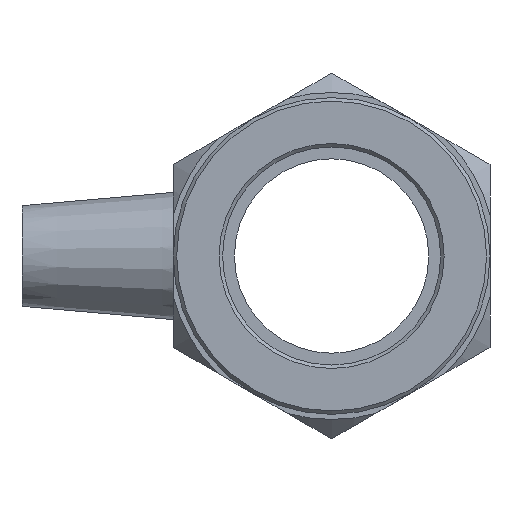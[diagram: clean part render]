
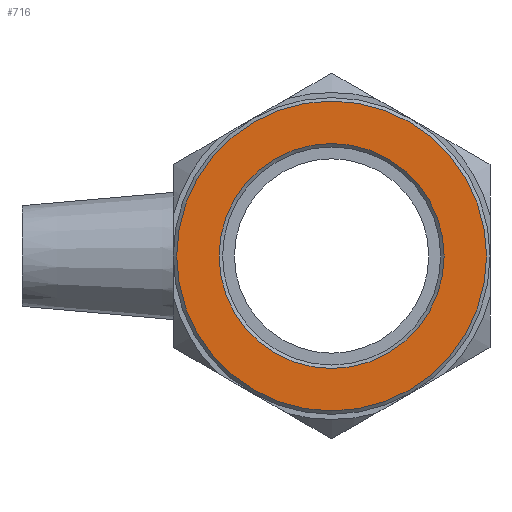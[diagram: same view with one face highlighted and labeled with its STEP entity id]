
A CAD part, left-side view. The second image highlights one B-rep face of the part: STEP entity #716.
In plain terms, the highlighted planar face has unit normal (-1, 0, 0).
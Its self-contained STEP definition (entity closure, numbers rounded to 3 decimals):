
#100=PLANE('',#778);
#127=FACE_BOUND('',#216,.T.);
#157=FACE_OUTER_BOUND('',#215,.T.);
#215=EDGE_LOOP('',(#510));
#216=EDGE_LOOP('',(#511));
#296=CIRCLE('',#777,15.626);
#297=CIRCLE('',#779,21.52);
#341=VERTEX_POINT('',#1106);
#342=VERTEX_POINT('',#1109);
#412=EDGE_CURVE('',#341,#341,#296,.T.);
#413=EDGE_CURVE('',#342,#342,#297,.T.);
#510=ORIENTED_EDGE('',*,*,#413,.F.);
#511=ORIENTED_EDGE('',*,*,#412,.F.);
#716=ADVANCED_FACE('',(#157,#127),#100,.T.);
#777=AXIS2_PLACEMENT_3D('',#1107,#887,#888);
#778=AXIS2_PLACEMENT_3D('',#1108,#889,#890);
#779=AXIS2_PLACEMENT_3D('',#1110,#891,#892);
#887=DIRECTION('center_axis',(-1.,0.,0.));
#888=DIRECTION('ref_axis',(0.,-1.,0.));
#889=DIRECTION('center_axis',(-1.,0.,0.));
#890=DIRECTION('ref_axis',(0.,0.,1.));
#891=DIRECTION('center_axis',(1.,0.,0.));
#892=DIRECTION('ref_axis',(0.,-1.,0.));
#1106=CARTESIAN_POINT('',(-85.,15.626,0.));
#1107=CARTESIAN_POINT('Origin',(-85.,0.,0.));
#1108=CARTESIAN_POINT('Origin',(-85.,22.,0.));
#1109=CARTESIAN_POINT('',(-85.,21.52,0.));
#1110=CARTESIAN_POINT('Origin',(-85.,0.,0.));
